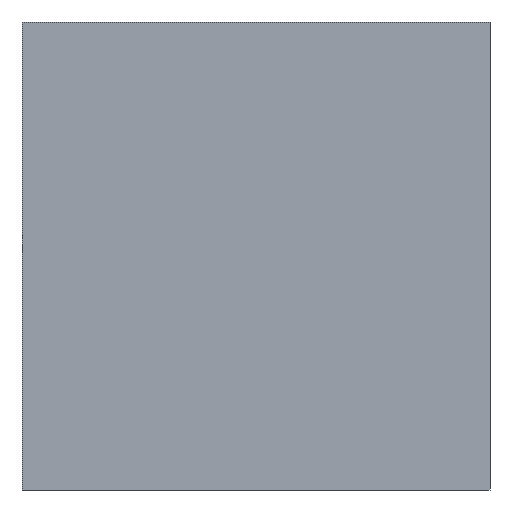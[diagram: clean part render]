
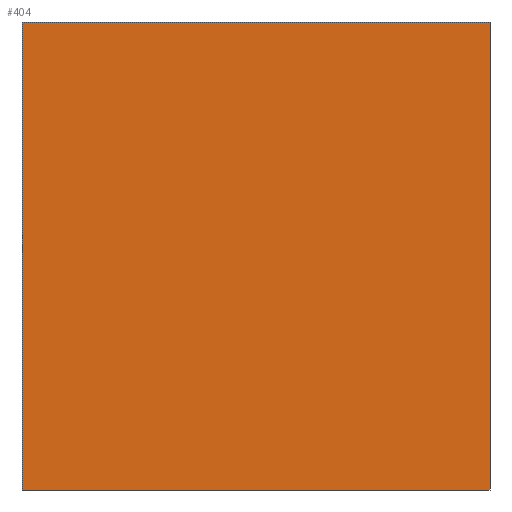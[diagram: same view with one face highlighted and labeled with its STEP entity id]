
A CAD part, front view. The second image highlights one B-rep face of the part: STEP entity #404.
In plain terms, the highlighted planar face has unit normal (0, -1, 0).
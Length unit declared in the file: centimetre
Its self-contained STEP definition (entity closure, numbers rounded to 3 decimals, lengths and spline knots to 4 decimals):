
#18 = VERTEX_POINT ( 'NONE', #380 ) ;
#32 = PLANE ( 'NONE',  #626 ) ;
#43 = CARTESIAN_POINT ( 'NONE',  ( 1000., 0., 0. ) ) ;
#51 = VERTEX_POINT ( 'NONE', #443 ) ;
#66 = LINE ( 'NONE', #118, #143 ) ;
#68 = CARTESIAN_POINT ( 'NONE',  ( 0., 0., 1000. ) ) ;
#69 = EDGE_LOOP ( 'NONE', ( #494, #110, #235, #677 ) ) ;
#74 = DIRECTION ( 'NONE',  ( 1., 0., 0. ) ) ;
#78 = CARTESIAN_POINT ( 'NONE',  ( 0., 0., 1000. ) ) ;
#80 = CARTESIAN_POINT ( 'NONE',  ( 0., 0., 1000. ) ) ;
#110 = ORIENTED_EDGE ( 'NONE', *, *, #180, .F. ) ;
#118 = CARTESIAN_POINT ( 'NONE',  ( 1000., 0., 1000. ) ) ;
#143 = VECTOR ( 'NONE', #240, 100. ) ;
#144 = EDGE_CURVE ( 'NONE', #51, #474, #507, .T. ) ;
#180 = EDGE_CURVE ( 'NONE', #18, #474, #66, .T. ) ;
#198 = VECTOR ( 'NONE', #270, 100. ) ;
#235 = ORIENTED_EDGE ( 'NONE', *, *, #630, .F. ) ;
#240 = DIRECTION ( 'NONE',  ( 0., 0., -1. ) ) ;
#244 = DIRECTION ( 'NONE',  ( 0., 1., 0. ) ) ;
#266 = CARTESIAN_POINT ( 'NONE',  ( 0., 0., 1000. ) ) ;
#270 = DIRECTION ( 'NONE',  ( 0., 0., -1. ) ) ;
#284 = VECTOR ( 'NONE', #74, 100. ) ;
#287 = CARTESIAN_POINT ( 'NONE',  ( 0., 0., 0. ) ) ;
#327 = LINE ( 'NONE', #266, #568 ) ;
#380 = CARTESIAN_POINT ( 'NONE',  ( 1000., 0., 1000. ) ) ;
#401 = VERTEX_POINT ( 'NONE', #78 ) ;
#404 = ADVANCED_FACE ( 'NONE', ( #508 ), #32, .F. ) ;
#434 = DIRECTION ( 'NONE',  ( 1., 0., 0. ) ) ;
#443 = CARTESIAN_POINT ( 'NONE',  ( 0., 0., 0. ) ) ;
#457 = DIRECTION ( 'NONE',  ( 0., 0., 1. ) ) ;
#474 = VERTEX_POINT ( 'NONE', #43 ) ;
#490 = LINE ( 'NONE', #68, #198 ) ;
#494 = ORIENTED_EDGE ( 'NONE', *, *, #144, .T. ) ;
#507 = LINE ( 'NONE', #287, #284 ) ;
#508 = FACE_OUTER_BOUND ( 'NONE', #69, .T. ) ;
#553 = EDGE_CURVE ( 'NONE', #401, #51, #490, .T. ) ;
#568 = VECTOR ( 'NONE', #434, 100. ) ;
#626 = AXIS2_PLACEMENT_3D ( 'NONE', #80, #244, #457 ) ;
#630 = EDGE_CURVE ( 'NONE', #401, #18, #327, .T. ) ;
#677 = ORIENTED_EDGE ( 'NONE', *, *, #553, .T. ) ;
